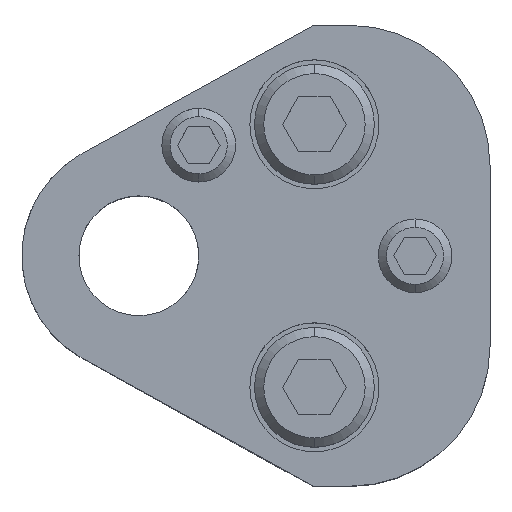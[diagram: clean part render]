
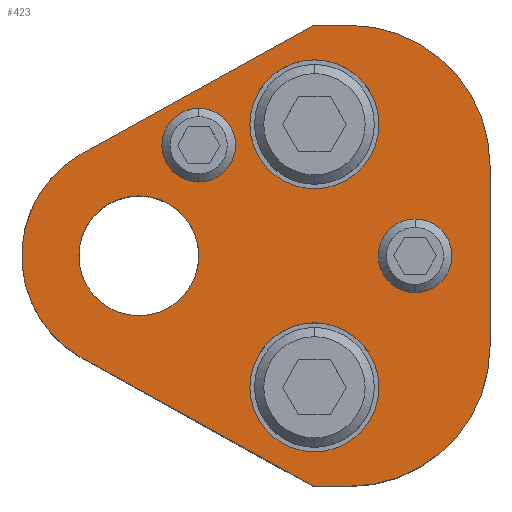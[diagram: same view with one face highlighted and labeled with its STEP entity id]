
A CAD part, top view. The second image highlights one B-rep face of the part: STEP entity #423.
In plain terms, the highlighted planar face has unit normal (0, 0, 1).
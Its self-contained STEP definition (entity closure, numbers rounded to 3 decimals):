
#198=FACE_BOUND('',#745,.T.);
#199=FACE_BOUND('',#746,.T.);
#200=FACE_BOUND('',#747,.T.);
#201=FACE_BOUND('',#748,.T.);
#202=FACE_BOUND('',#749,.T.);
#203=FACE_BOUND('',#750,.T.);
#273=CIRCLE('',#2385,15.2);
#275=CIRCLE('',#2389,15.2);
#277=CIRCLE('',#2394,4.);
#279=CIRCLE('',#2397,4.);
#281=CIRCLE('',#2400,4.);
#283=CIRCLE('',#2403,4.);
#293=CIRCLE('',#2418,12.7);
#294=CIRCLE('',#2419,7.);
#295=CIRCLE('',#2420,7.);
#296=CIRCLE('',#2421,7.);
#297=CIRCLE('',#2422,7.);
#298=CIRCLE('',#2423,6.5);
#299=CIRCLE('',#2424,6.5);
#423=ADVANCED_FACE('',(#198,#199,#200,#201,#202,#203),#519,.T.);
#519=PLANE('',#2425);
#745=EDGE_LOOP('',(#1122,#1123,#1124,#1125,#1126,#1127,#1128,#1129));
#746=EDGE_LOOP('',(#1130,#1131));
#747=EDGE_LOOP('',(#1132,#1133));
#748=EDGE_LOOP('',(#1134,#1135));
#749=EDGE_LOOP('',(#1136,#1137));
#750=EDGE_LOOP('',(#1138,#1139));
#1122=ORIENTED_EDGE('',*,*,#1794,.T.);
#1123=ORIENTED_EDGE('',*,*,#1752,.T.);
#1124=ORIENTED_EDGE('',*,*,#1756,.T.);
#1125=ORIENTED_EDGE('',*,*,#1759,.T.);
#1126=ORIENTED_EDGE('',*,*,#1762,.T.);
#1127=ORIENTED_EDGE('',*,*,#1765,.T.);
#1128=ORIENTED_EDGE('',*,*,#1768,.T.);
#1129=ORIENTED_EDGE('',*,*,#1795,.T.);
#1130=ORIENTED_EDGE('',*,*,#1796,.F.);
#1131=ORIENTED_EDGE('',*,*,#1797,.F.);
#1132=ORIENTED_EDGE('',*,*,#1798,.F.);
#1133=ORIENTED_EDGE('',*,*,#1799,.F.);
#1134=ORIENTED_EDGE('',*,*,#1780,.F.);
#1135=ORIENTED_EDGE('',*,*,#1776,.F.);
#1136=ORIENTED_EDGE('',*,*,#1774,.F.);
#1137=ORIENTED_EDGE('',*,*,#1770,.F.);
#1138=ORIENTED_EDGE('',*,*,#1800,.T.);
#1139=ORIENTED_EDGE('',*,*,#1801,.T.);
#1513=VERTEX_POINT('',#3544);
#1514=VERTEX_POINT('',#3546);
#1517=VERTEX_POINT('',#3553);
#1519=VERTEX_POINT('',#3559);
#1521=VERTEX_POINT('',#3565);
#1523=VERTEX_POINT('',#3571);
#1525=VERTEX_POINT('',#3577);
#1526=VERTEX_POINT('',#3582);
#1527=VERTEX_POINT('',#3583);
#1530=VERTEX_POINT('',#3594);
#1531=VERTEX_POINT('',#3595);
#1542=VERTEX_POINT('',#3630);
#1543=VERTEX_POINT('',#3633);
#1544=VERTEX_POINT('',#3634);
#1545=VERTEX_POINT('',#3637);
#1546=VERTEX_POINT('',#3638);
#1547=VERTEX_POINT('',#3641);
#1548=VERTEX_POINT('',#3642);
#1752=EDGE_CURVE('',#1514,#1513,#2006,.T.);
#1756=EDGE_CURVE('',#1513,#1517,#273,.T.);
#1759=EDGE_CURVE('',#1517,#1519,#2011,.T.);
#1762=EDGE_CURVE('',#1519,#1521,#275,.T.);
#1765=EDGE_CURVE('',#1521,#1523,#2015,.T.);
#1768=EDGE_CURVE('',#1523,#1525,#2018,.T.);
#1770=EDGE_CURVE('',#1526,#1527,#277,.T.);
#1774=EDGE_CURVE('',#1527,#1526,#279,.T.);
#1776=EDGE_CURVE('',#1530,#1531,#281,.T.);
#1780=EDGE_CURVE('',#1531,#1530,#283,.T.);
#1794=EDGE_CURVE('',#1542,#1514,#2028,.T.);
#1795=EDGE_CURVE('',#1525,#1542,#293,.T.);
#1796=EDGE_CURVE('',#1543,#1544,#294,.T.);
#1797=EDGE_CURVE('',#1544,#1543,#295,.T.);
#1798=EDGE_CURVE('',#1545,#1546,#296,.T.);
#1799=EDGE_CURVE('',#1546,#1545,#297,.T.);
#1800=EDGE_CURVE('',#1547,#1548,#298,.T.);
#1801=EDGE_CURVE('',#1548,#1547,#299,.T.);
#2006=LINE('',#3545,#2179);
#2011=LINE('',#3560,#2184);
#2015=LINE('',#3572,#2188);
#2018=LINE('',#3578,#2191);
#2028=LINE('',#3629,#2201);
#2179=VECTOR('',#2815,1.);
#2184=VECTOR('',#2828,1.);
#2188=VECTOR('',#2840,1.);
#2191=VECTOR('',#2845,1.);
#2201=VECTOR('',#2905,1.);
#2385=AXIS2_PLACEMENT_3D('',#3554,#2821,#2822);
#2389=AXIS2_PLACEMENT_3D('',#3566,#2833,#2834);
#2394=AXIS2_PLACEMENT_3D('',#3581,#2849,#2850);
#2397=AXIS2_PLACEMENT_3D('',#3590,#2857,#2858);
#2400=AXIS2_PLACEMENT_3D('',#3593,#2863,#2864);
#2403=AXIS2_PLACEMENT_3D('',#3602,#2871,#2872);
#2418=AXIS2_PLACEMENT_3D('',#3631,#2906,#2907);
#2419=AXIS2_PLACEMENT_3D('',#3632,#2908,#2909);
#2420=AXIS2_PLACEMENT_3D('',#3635,#2910,#2911);
#2421=AXIS2_PLACEMENT_3D('',#3636,#2912,#2913);
#2422=AXIS2_PLACEMENT_3D('',#3639,#2914,#2915);
#2423=AXIS2_PLACEMENT_3D('',#3640,#2916,#2917);
#2424=AXIS2_PLACEMENT_3D('',#3643,#2918,#2919);
#2425=AXIS2_PLACEMENT_3D('',#3644,#2920,#2921);
#2815=DIRECTION('',(1.,0.,0.));
#2821=DIRECTION('',(0.,0.,1.));
#2822=DIRECTION('',(-0.707,0.707,0.));
#2828=DIRECTION('',(0.,1.,0.));
#2833=DIRECTION('',(0.,0.,1.));
#2834=DIRECTION('',(-0.707,-0.707,0.));
#2840=DIRECTION('',(-1.,0.,0.));
#2845=DIRECTION('',(-0.875,-0.485,0.));
#2849=DIRECTION('',(0.,0.,1.));
#2850=DIRECTION('',(-1.,0.,0.));
#2857=DIRECTION('',(0.,0.,1.));
#2858=DIRECTION('',(1.,0.,0.));
#2863=DIRECTION('',(0.,0.,1.));
#2864=DIRECTION('',(-1.,0.,0.));
#2871=DIRECTION('',(0.,0.,1.));
#2872=DIRECTION('',(1.,0.,0.));
#2905=DIRECTION('',(0.875,-0.485,0.));
#2906=DIRECTION('',(0.,0.,1.));
#2907=DIRECTION('',(1.,0.,0.));
#2908=DIRECTION('',(0.,0.,1.));
#2909=DIRECTION('',(1.,0.,0.));
#2910=DIRECTION('',(0.,0.,1.));
#2911=DIRECTION('',(-1.,0.,0.));
#2912=DIRECTION('',(0.,0.,1.));
#2913=DIRECTION('',(1.,0.,0.));
#2914=DIRECTION('',(0.,0.,1.));
#2915=DIRECTION('',(-1.,0.,0.));
#2916=DIRECTION('',(0.,0.,-1.));
#2917=DIRECTION('',(-1.,0.,0.));
#2918=DIRECTION('',(0.,0.,-1.));
#2919=DIRECTION('',(1.,0.,0.));
#2920=DIRECTION('',(0.,0.,1.));
#2921=DIRECTION('',(-0.875,0.485,0.));
#3544=CARTESIAN_POINT('',(22.9,-25.,25.));
#3545=CARTESIAN_POINT('',(18.905,-25.,25.));
#3546=CARTESIAN_POINT('',(18.905,-25.,25.));
#3553=CARTESIAN_POINT('',(38.1,-9.8,25.));
#3554=CARTESIAN_POINT('',(22.9,-9.8,25.));
#3559=CARTESIAN_POINT('',(38.1,9.8,25.));
#3560=CARTESIAN_POINT('',(38.1,9.8,25.));
#3565=CARTESIAN_POINT('',(22.9,25.,25.));
#3566=CARTESIAN_POINT('',(22.9,9.8,25.));
#3571=CARTESIAN_POINT('',(18.905,25.,25.));
#3572=CARTESIAN_POINT('',(18.905,25.,25.));
#3577=CARTESIAN_POINT('',(-6.157,11.108,25.));
#3578=CARTESIAN_POINT('',(18.905,25.,25.));
#3581=CARTESIAN_POINT('',(6.5,12.,25.));
#3582=CARTESIAN_POINT('',(6.5,8.,25.));
#3583=CARTESIAN_POINT('',(6.5,16.,25.));
#3590=CARTESIAN_POINT('',(6.5,12.,25.));
#3593=CARTESIAN_POINT('',(29.97,0.,25.));
#3594=CARTESIAN_POINT('',(29.97,-4.,25.));
#3595=CARTESIAN_POINT('',(29.97,4.,25.));
#3602=CARTESIAN_POINT('',(29.97,0.,25.));
#3629=CARTESIAN_POINT('',(18.905,-25.,25.));
#3630=CARTESIAN_POINT('',(-6.157,-11.108,25.));
#3631=CARTESIAN_POINT('',(0.,0.,25.));
#3632=CARTESIAN_POINT('',(19.05,14.27,25.));
#3633=CARTESIAN_POINT('',(19.05,21.27,25.));
#3634=CARTESIAN_POINT('',(19.05,7.27,25.));
#3635=CARTESIAN_POINT('',(19.05,14.27,25.));
#3636=CARTESIAN_POINT('',(19.05,-14.27,25.));
#3637=CARTESIAN_POINT('',(19.05,-7.27,25.));
#3638=CARTESIAN_POINT('',(19.05,-21.27,25.));
#3639=CARTESIAN_POINT('',(19.05,-14.27,25.));
#3640=CARTESIAN_POINT('',(0.,0.,25.));
#3641=CARTESIAN_POINT('',(0.,6.5,25.));
#3642=CARTESIAN_POINT('',(0.,-6.5,25.));
#3643=CARTESIAN_POINT('',(0.,0.,25.));
#3644=CARTESIAN_POINT('',(-6.157,-11.108,25.));
